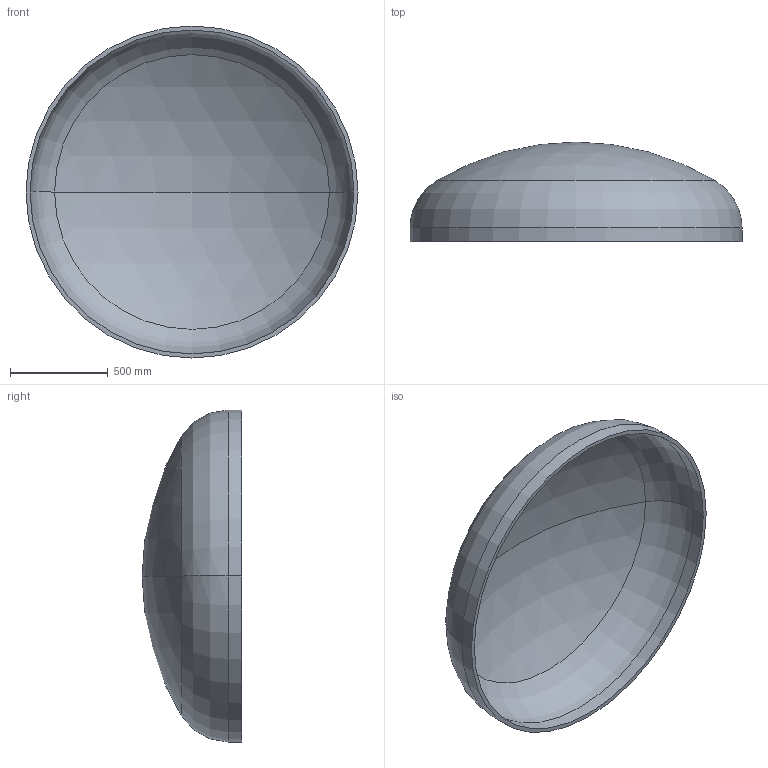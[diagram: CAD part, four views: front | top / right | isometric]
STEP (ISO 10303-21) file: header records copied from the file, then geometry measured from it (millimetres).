
FILE_DESCRIPTION (( 'STEP AP203' ), '1' );
FILE_NAME ('DIN 28013 Korbbogenform_-_Boden DIN 28013 - 1700 x 70 - I - s=21.step', '2016-07-01T11:40:54', ( '' ), ( '' ), 'SwSTEP 2.0', 'SolidWorks 2013', '' );
FILE_SCHEMA (( 'CONFIG_CONTROL_DESIGN' ));
Length unit declared in the file: millimetre
Products named in the file (1): DIN 28013 Korbbogenform_-_Boden DIN 28013 - 1700 x 70 - I - s=21
Bounding box: 1700 x 509.6 x 1700 mm (x, y, z)
Volume: 72613138.8 mm3; surface area: 7027227.6 mm2
Topology: 1 solids, 1 shells, 13 faces, 24 edges, 14 vertices
Faces by surface type: torus 4, cylinder 4, sphere 4, plane 1
Entity records: 407 total; most frequent: DIRECTION 72, CARTESIAN_POINT 52, ORIENTED_EDGE 48, AXIS2_PLACEMENT_3D 34, EDGE_CURVE 24, CIRCLE 20, VERTEX_POINT 14, EDGE_LOOP 14
